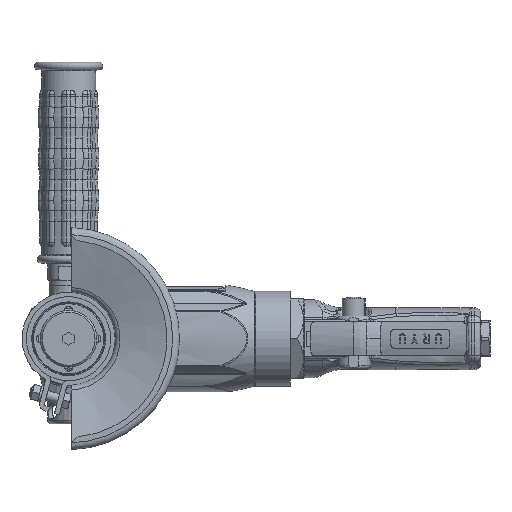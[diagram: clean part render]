
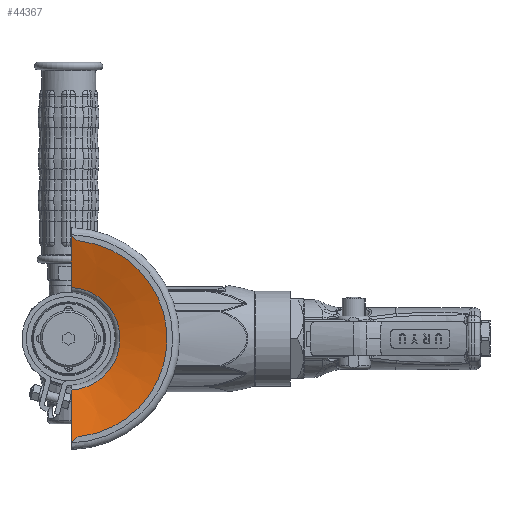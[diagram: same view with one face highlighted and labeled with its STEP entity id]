
A CAD part, front view. The second image highlights one B-rep face of the part: STEP entity #44367.
In plain terms, the highlighted conical face has half-angle 72.798 degrees and reference radius 55.592 mm.
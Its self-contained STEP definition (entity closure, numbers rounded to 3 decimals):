
#115 = DIRECTION ( 'NONE',  ( 0., 1., 0. ) ) ;
#671 = ORIENTED_EDGE ( 'NONE', *, *, #19653, .F. ) ;
#2006 = CARTESIAN_POINT ( 'NONE',  ( 1.4, -14.868, 36.591 ) ) ;
#3785 = CARTESIAN_POINT ( 'NONE',  ( 1.4, -11.934, 27.099 ) ) ;
#7488 = AXIS2_PLACEMENT_3D ( 'NONE', #26427, #115, #30837 ) ;
#8682 = EDGE_CURVE ( 'NONE', #36847, #43215, #24144, .T. ) ;
#9148 = CARTESIAN_POINT ( 'NONE',  ( 0., -20.744, 0. ) ) ;
#10722 = ORIENTED_EDGE ( 'NONE', *, *, #8682, .T. ) ;
#10864 = CARTESIAN_POINT ( 'NONE',  ( 1.4, -17.806, 46.083 ) ) ;
#11940 = CARTESIAN_POINT ( 'NONE',  ( 1.4, -20.744, -55.574 ) ) ;
#13583 = DIRECTION ( 'NONE',  ( 0., -1., 0. ) ) ;
#14912 = VERTEX_POINT ( 'NONE', #38018 ) ;
#19653 = EDGE_CURVE ( 'NONE', #36847, #14912, #20063, .T. ) ;
#20063 = B_SPLINE_CURVE_WITH_KNOTS ( 'NONE', 3,
 ( #32735, #2006, #10864, #41555 ),
 .UNSPECIFIED., .F., .F.,
 ( 4, 4 ),
 ( 0.156, 0.185 ),
 .UNSPECIFIED. ) ;
#20779 = CARTESIAN_POINT ( 'NONE',  ( 1.4, -14.868, -36.591 ) ) ;
#21624 = CARTESIAN_POINT ( 'NONE',  ( 0., -20.744, 0. ) ) ;
#24144 = CIRCLE ( 'NONE', #7488, 27.135 ) ;
#25382 = EDGE_LOOP ( 'NONE', ( #48872, #42187, #671, #10722 ) ) ;
#26019 = DIRECTION ( 'NONE',  ( 0., 0., 1. ) ) ;
#26427 = CARTESIAN_POINT ( 'NONE',  ( 0., -11.934, 0. ) ) ;
#28437 = AXIS2_PLACEMENT_3D ( 'NONE', #9148, #13583, #35432 ) ;
#29411 = CONICAL_SURFACE ( 'NONE', #28437, 55.591, 1.271 ) ;
#30784 = FACE_OUTER_BOUND ( 'NONE', #25382, .T. ) ;
#30837 = DIRECTION ( 'NONE',  ( 0., 0., 1. ) ) ;
#32735 = CARTESIAN_POINT ( 'NONE',  ( 1.4, -11.934, 27.099 ) ) ;
#33507 = EDGE_CURVE ( 'NONE', #35624, #43215, #40381, .T. ) ;
#35432 = DIRECTION ( 'NONE',  ( 0., 0., -1. ) ) ;
#35624 = VERTEX_POINT ( 'NONE', #46532 ) ;
#36847 = VERTEX_POINT ( 'NONE', #3785 ) ;
#38018 = CARTESIAN_POINT ( 'NONE',  ( 1.4, -20.744, 55.574 ) ) ;
#38226 = CARTESIAN_POINT ( 'NONE',  ( 1.4, -17.806, -46.083 ) ) ;
#40227 = CIRCLE ( 'NONE', #47971, 55.591 ) ;
#40381 = B_SPLINE_CURVE_WITH_KNOTS ( 'NONE', 3,
 ( #11940, #38226, #20779, #51460 ),
 .UNSPECIFIED., .F., .F.,
 ( 4, 4 ),
 ( 0.07, 0.1 ),
 .UNSPECIFIED. ) ;
#41555 = CARTESIAN_POINT ( 'NONE',  ( 1.4, -20.744, 55.574 ) ) ;
#42187 = ORIENTED_EDGE ( 'NONE', *, *, #46734, .F. ) ;
#43215 = VERTEX_POINT ( 'NONE', #47435 ) ;
#44367 = ADVANCED_FACE ( 'NONE', ( #30784 ), #29411, .F. ) ;
#46532 = CARTESIAN_POINT ( 'NONE',  ( 1.4, -20.744, -55.574 ) ) ;
#46734 = EDGE_CURVE ( 'NONE', #14912, #35624, #40227, .T. ) ;
#47435 = CARTESIAN_POINT ( 'NONE',  ( 1.4, -11.934, -27.099 ) ) ;
#47971 = AXIS2_PLACEMENT_3D ( 'NONE', #21624, #52314, #26019 ) ;
#48872 = ORIENTED_EDGE ( 'NONE', *, *, #33507, .F. ) ;
#51460 = CARTESIAN_POINT ( 'NONE',  ( 1.4, -11.934, -27.099 ) ) ;
#52314 = DIRECTION ( 'NONE',  ( 0., 1., 0. ) ) ;
